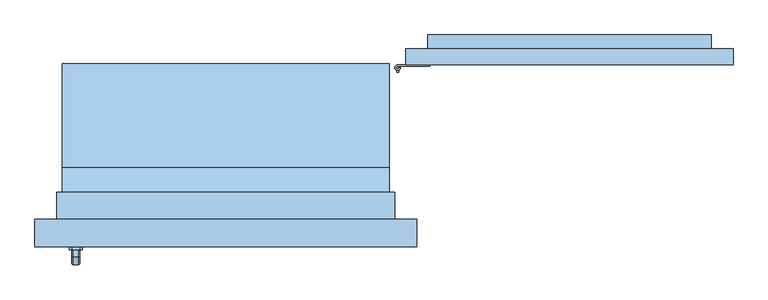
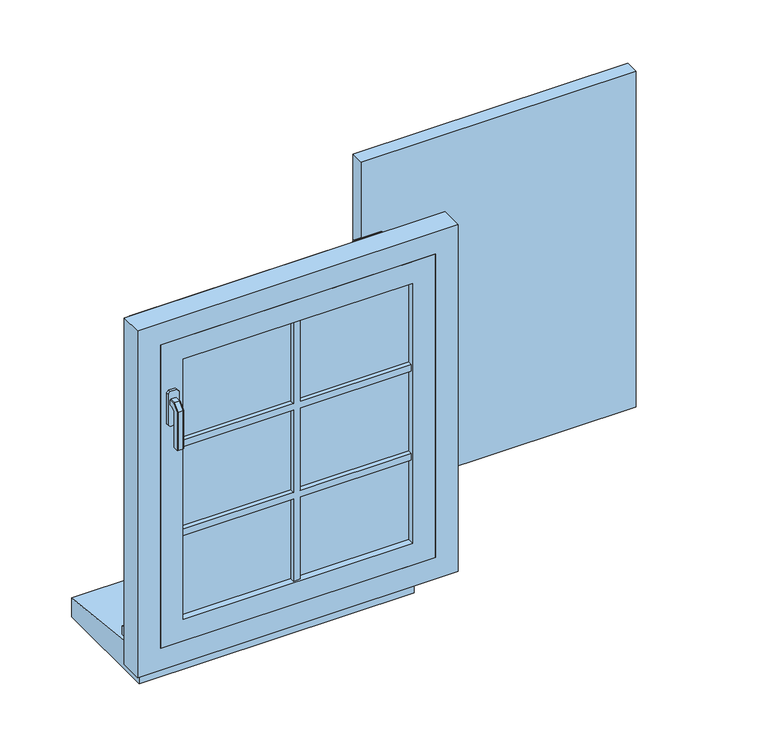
"""IFC4 building model written with IfcOpenShell, lengths in millimetres: window geometry, 1 Vantail droit - Volet et petits bois : 0.60m x 0.75m - Appui Béton."""

from ifc_helpers import new_model, si_unit, point, frame, frame_2d, origin, place, context, project, spatial, polyline, circle_curve, trimmed, segment, composite_curve, outline, extrude, faceted_brep, source, transform, mapped, element, save
from ifc_brep_helpers import plane_surface, cylinder_surface, advanced_brep


def window_c6c463f3(model_context):
    return source(origin(), model_context, "Body", "SolidModel", [
        extrude(outline(polyline([(930.0, 173.0), (330.0, 173.0), (330.0, 203.0), (930.0, 203.0), (930.0, 173.0)])), frame((0.0, 0.0, 775.0), z_axis=(0.0, 0.0, 1.0), x_axis=(1.0, 0.0, 0.0)), (0.0, 0.0, 1.0), 775.0),
        advanced_brep(
        [(310.0, 168.0, 975.0), (320.0, 168.0, 975.0), (310.0, 168.0, 950.0), (320.0, 168.0, 950.0), (317.0, 163.4174243, 955.0), (313.0, 163.4174243, 955.0), (313.0, 163.4174243, 965.0), (317.0, 163.4174243, 965.0), (313.0, 160.0, 965.0), (317.0, 160.0, 965.0), (317.0, 160.0, 955.0), (313.0, 160.0, 955.0)],
        [
            (0, 1, circle_curve(frame((315.0, 168.0, 975.0), z_axis=(0.0, 0.0, 1.0), x_axis=(1.0, 0.0, 0.0)), 5.0)),
            (1, 0, circle_curve(frame((315.0, 168.0, 975.0), z_axis=(0.0, 0.0, 1.0), x_axis=(1.0, 0.0, 0.0)), 5.0)),
            (2, 3, circle_curve(frame((315.0, 168.0, 950.0), z_axis=(0.0, 0.0, -1.0), x_axis=(1.0, 0.0, 0.0)), 5.0)),
            (3, 2, circle_curve(frame((315.0, 168.0, 950.0), z_axis=(0.0, 0.0, -1.0), x_axis=(1.0, 0.0, 0.0)), 5.0)),
            (0, 2),
            (3, 1),
            (4, 5, circle_curve(frame((315.0, 168.0, 955.0), z_axis=(0.0, 0.0, -1.0), x_axis=(1.0, 0.0, 0.0)), 5.0)),
            (5, 6),
            (6, 7, circle_curve(frame((315.0, 168.0, 965.0), z_axis=(0.0, 0.0, 1.0), x_axis=(1.0, 0.0, 0.0)), 5.0)),
            (7, 4),
            (8, 9),
            (9, 7),
            (6, 8),
            (10, 11),
            (11, 5),
            (4, 10),
            (9, 10),
            (11, 8),
        ],
        [
            plane_surface(frame((320.0, 168.0, 975.0), z_axis=(0.0, 0.0, 1.0), x_axis=(0.0, 1.0, 0.0))),
            plane_surface(frame((320.0, 168.0, 950.0), z_axis=(0.0, 0.0, -1.0), x_axis=(0.0, -1.0, 0.0))),
            cylinder_surface(frame((315.0, 168.0, 950.0), z_axis=(0.0, 0.0, 1.0), x_axis=(1.0, 0.0, 0.0)), 5.0),
            plane_surface(frame((317.0, 160.0, 965.0), z_axis=(0.0, 0.0, 1.0), x_axis=(0.0, 1.0, 0.0))),
            plane_surface(frame((317.0, 160.0, 955.0), z_axis=(0.0, 0.0, -1.0), x_axis=(0.0, -1.0, 0.0))),
            plane_surface(frame((317.0, 160.0, 965.0), z_axis=(1.0, 0.0, 0.0), x_axis=(0.0, 0.0, -1.0))),
            plane_surface(frame((313.0, 165.0, 965.0), z_axis=(-1.0, 0.0, 0.0), x_axis=(0.0, 0.0, -1.0))),
            plane_surface(frame((313.0, 160.0, 965.0), z_axis=(0.0, -1.0, 0.0), x_axis=(0.0, 0.0, -1.0))),
        ],
        [
            (0, [[1, 2]]),
            (1, [[3, 4]]),
            (2, [[-1, 5, -4, 6], [7, 8, 9, 10]]),
            (2, [[-2, -6, -3, -5]]),
            (3, [[11, 12, -9, 13]]),
            (4, [[14, 15, -7, 16]]),
            (5, [[17, -16, -10, -12]]),
            (6, [[18, -13, -8, -15]]),
            (7, [[-11, -18, -14, -17]]),
        ],
    ),
        extrude(outline(composite_curve([segment(polyline([(315.0, 173.0), (374.3092325, 173.0), (374.3092325, 170.5), (315.0, 170.5)]), True, "CONTINUOUS"), segment(trimmed(circle_curve(frame_2d((315.0, 168.0)), 2.5), [point((315.0, 170.5))], [point((317.5, 168.0))], True, "CARTESIAN"), True, "CONTINUOUS"), segment(polyline([(317.5, 168.0), (320.0, 168.0)]), True, "CONTINUOUS"), segment(trimmed(circle_curve(frame_2d((315.0, 168.0)), 5.0), [point((320.0, 168.0))], [point((315.0, 173.0))], False, "CARTESIAN"), True, "CONTINUOUS")], self_intersect=False)), frame((0.0, 0.0, 975.0), z_axis=(0.0, 0.0, 1.0), x_axis=(1.0, 0.0, 0.0)), (0.0, 0.0, 1.0), 25.0),
        extrude(outline(composite_curve([segment(trimmed(circle_curve(frame_2d((315.0, 168.0)), 2.5), [point((312.5, 168.0))], [point((317.5, 168.0))], False, "CARTESIAN"), True, "CONTINUOUS"), segment(trimmed(circle_curve(frame_2d((315.0, 168.0)), 2.5), [point((317.5, 168.0))], [point((312.5, 168.0))], False, "CARTESIAN"), True, "CONTINUOUS")], self_intersect=False)), frame((0.0, 0.0, 975.0), z_axis=(0.0, 0.0, 1.0), x_axis=(1.0, 0.0, 0.0)), (0.0, 0.0, 1.0), 25.0),
        advanced_brep(
        [(310.0, 168.0, 1350.0), (320.0, 168.0, 1350.0), (310.0, 168.0, 1325.0), (320.0, 168.0, 1325.0), (313.0, 163.4174243, 1340.0), (317.0, 163.4174243, 1340.0), (317.0, 163.4174243, 1330.0), (313.0, 163.4174243, 1330.0), (313.0, 160.0, 1340.0), (317.0, 160.0, 1340.0), (313.0, 160.0, 1330.0), (317.0, 160.0, 1330.0)],
        [
            (0, 1, circle_curve(frame((315.0, 168.0, 1350.0), z_axis=(0.0, 0.0, 1.0), x_axis=(1.0, 0.0, 0.0)), 5.0)),
            (1, 0, circle_curve(frame((315.0, 168.0, 1350.0), z_axis=(0.0, 0.0, 1.0), x_axis=(1.0, 0.0, 0.0)), 5.0)),
            (2, 3, circle_curve(frame((315.0, 168.0, 1325.0), z_axis=(0.0, 0.0, -1.0), x_axis=(1.0, 0.0, 0.0)), 5.0)),
            (3, 2, circle_curve(frame((315.0, 168.0, 1325.0), z_axis=(0.0, 0.0, -1.0), x_axis=(1.0, 0.0, 0.0)), 5.0)),
            (0, 2),
            (3, 1),
            (4, 5, circle_curve(frame((315.0, 168.0, 1340.0), z_axis=(0.0, 0.0, 1.0), x_axis=(1.0, 0.0, 0.0)), 5.0)),
            (5, 6),
            (6, 7, circle_curve(frame((315.0, 168.0, 1330.0), z_axis=(0.0, 0.0, -1.0), x_axis=(1.0, 0.0, 0.0)), 5.0)),
            (7, 4),
            (8, 9),
            (9, 5),
            (4, 8),
            (10, 7),
            (6, 11),
            (11, 10),
            (8, 10),
            (11, 9),
        ],
        [
            plane_surface(frame((320.0, 168.0, 1350.0), z_axis=(0.0, 0.0, 1.0), x_axis=(0.0, 1.0, 0.0))),
            plane_surface(frame((320.0, 168.0, 1325.0), z_axis=(0.0, 0.0, -1.0), x_axis=(0.0, -1.0, 0.0))),
            cylinder_surface(frame((315.0, 168.0, 1325.0), z_axis=(0.0, 0.0, 1.0), x_axis=(1.0, 0.0, 0.0)), 5.0),
            plane_surface(frame((313.0, 160.0, 1340.0), z_axis=(0.0, 0.0, 1.0), x_axis=(1.0, 0.0, 0.0))),
            plane_surface(frame((313.0, 160.0, 1330.0), z_axis=(0.0, 0.0, -1.0), x_axis=(-1.0, 0.0, 0.0))),
            plane_surface(frame((313.0, 160.0, 1340.0), z_axis=(0.0, -1.0, 0.0), x_axis=(0.0, 0.0, -1.0))),
            plane_surface(frame((317.0, 160.0, 1340.0), z_axis=(1.0, 0.0, 0.0), x_axis=(0.0, 0.0, -1.0))),
            plane_surface(frame((313.0, 163.4174243, 1340.0), z_axis=(-1.0, 0.0, 0.0), x_axis=(0.0, 0.0, -1.0))),
        ],
        [
            (0, [[1, 2]]),
            (1, [[3, 4]]),
            (2, [[-1, 5, -4, 6], [7, 8, 9, 10]]),
            (2, [[-2, -6, -3, -5]]),
            (3, [[11, 12, -7, 13]]),
            (4, [[14, -9, 15, 16]]),
            (5, [[-11, 17, -16, 18]]),
            (6, [[-12, -18, -15, -8]]),
            (7, [[-13, -10, -14, -17]]),
        ],
    ),
        extrude(outline(composite_curve([segment(polyline([(315.0, 173.0), (374.3092325, 173.0), (374.3092325, 170.5), (315.0, 170.5)]), True, "CONTINUOUS"), segment(trimmed(circle_curve(frame_2d((315.0, 168.0)), 2.5), [point((315.0, 170.5))], [point((317.5, 168.0))], True, "CARTESIAN"), True, "CONTINUOUS"), segment(polyline([(317.5, 168.0), (320.0, 168.0)]), True, "CONTINUOUS"), segment(trimmed(circle_curve(frame_2d((315.0, 168.0)), 5.0), [point((320.0, 168.0))], [point((315.0, 173.0))], False, "CARTESIAN"), True, "CONTINUOUS")], self_intersect=False)), frame((0.0, 0.0, 1350.0), z_axis=(0.0, 0.0, 1.0), x_axis=(1.0, 0.0, 0.0)), (0.0, 0.0, 1.0), 25.0),
        extrude(outline(composite_curve([segment(trimmed(circle_curve(frame_2d((315.0, 168.0)), 2.5), [point((312.5, 168.0))], [point((317.5, 168.0))], False, "CARTESIAN"), True, "CONTINUOUS"), segment(trimmed(circle_curve(frame_2d((315.0, 168.0)), 2.5), [point((317.5, 168.0))], [point((312.5, 168.0))], False, "CARTESIAN"), True, "CONTINUOUS")], self_intersect=False)), frame((0.0, 0.0, 1350.0), z_axis=(0.0, 0.0, 1.0), x_axis=(1.0, 0.0, 0.0)), (0.0, 0.0, 1.0), 25.0),
        extrude(outline(polyline([(1310.0, 890.0), (1310.0, 757.8528094), (1015.0, 370.0007252), (1015.0, 502.1479158), (1310.0, 890.0)])), frame((0.0, 203.0, 0.0), z_axis=(0.0, 1.0, 0.0), x_axis=(0.0, 0.0, 1.0)), (0.0, 0.0, 1.0), 25.0),
        extrude(outline(polyline([(370.0, 228.0), (890.0, 228.0), (890.0, 203.0), (370.0, 203.0), (370.0, 228.0)])), frame((0.0, 0.0, 1310.0), z_axis=(0.0, 0.0, 1.0), x_axis=(1.0, 0.0, 0.0)), (0.0, 0.0, 1.0), 80.0),
        extrude(outline(polyline([(370.0, 228.0), (890.0, 228.0), (890.0, 203.0), (370.0, 203.0), (370.0, 228.0)])), frame((0.0, 0.0, 935.0), z_axis=(0.0, 0.0, 1.0), x_axis=(1.0, 0.0, 0.0)), (0.0, 0.0, 1.0), 80.0),
        extrude(outline(polyline([(1310.0, -250.0), (1295.0, -250.0), (1295.0, -7.5), (1105.0, -7.5), (1105.0, -250.0), (1090.0, -250.0), (1090.0, -7.5), (900.0, -7.5), (900.0, 7.5), (1090.0, 7.5), (1090.0, 250.0), (1105.0, 250.0), (1105.0, 7.5), (1295.0, 7.5), (1295.0, 250.0), (1310.0, 250.0), (1310.0, 7.5), (1500.0, 7.5), (1500.0, -7.5), (1310.0, -7.5), (1310.0, -250.0)])), frame((0.0, -134.0, 0.0), z_axis=(0.0, 1.0, 0.0), x_axis=(0.0, 0.0, 1.0)), (0.0, 0.0, 1.0), 10.0),
        extrude(outline(polyline([(1310.0, -250.0), (1295.0, -250.0), (1295.0, -7.5), (1105.0, -7.5), (1105.0, -250.0), (1090.0, -250.0), (1090.0, -7.5), (900.0, -7.5), (900.0, 7.5), (1090.0, 7.5), (1090.0, 250.0), (1105.0, 250.0), (1105.0, 7.5), (1295.0, 7.5), (1295.0, 250.0), (1310.0, 250.0), (1310.0, 7.5), (1500.0, 7.5), (1500.0, -7.5), (1310.0, -7.5), (1310.0, -250.0)])), frame((0.0, -156.0, 0.0), z_axis=(0.0, 1.0, 0.0), x_axis=(0.0, 0.0, 1.0)), (0.0, 0.0, 1.0), 10.0),
        faceted_brep([(-269.3539903, -166.0, 1422.0339292), (-267.9660708, -166.0, 1420.6460097), (-267.9660708, -166.0, 1409.3323012), (-269.3323012, -166.0, 1407.9660708), (-280.6676988, -166.0, 1407.9660708), (-282.0339292, -166.0, 1409.3323012), (-282.0339292, -166.0, 1420.6460097), (-280.6460097, -166.0, 1422.0339292), (-269.3539903, -178.9135489, 1422.0339292), (-267.9660708, -178.3386538, 1420.6460097), (-267.9660708, -191.6460097, 1407.3386538), (-267.9660708, -191.6460097, 1320.0), (-267.9660708, -180.3323012, 1320.0), (-267.9660708, -180.3323012, 1402.6523623), (-267.9660708, -173.6523623, 1409.3323012), (-269.3323012, -173.0864511, 1407.9660708), (-280.6676988, -173.0864511, 1407.9660708), (-282.0339292, -173.6523623, 1409.3323012), (-282.0339292, -180.3323012, 1402.6523623), (-282.0339292, -180.3323012, 1320.0), (-282.0339292, -191.6460097, 1320.0), (-282.0339292, -191.6460097, 1407.3386538), (-282.0339292, -178.3386538, 1420.6460097), (-280.6460097, -178.9135489, 1422.0339292), (-269.3539903, -193.0339292, 1407.9135489), (-269.3323012, -178.9660708, 1402.0864511), (-280.6676988, -178.9660708, 1402.0864511), (-280.6460097, -193.0339292, 1407.9135489), (-269.3539903, -193.0339292, 1320.0), (-280.6460097, -193.0339292, 1320.0), (-280.6676988, -178.9660708, 1320.0), (-269.3323012, -178.9660708, 1320.0)], [[[0, 1, 2, 3, 4, 5, 6, 7]], [[1, 0, 8, 9]], [[2, 1, 9, 10, 11, 12, 13, 14]], [[3, 2, 14, 15]], [[4, 3, 15, 16]], [[5, 4, 16, 17]], [[6, 5, 17, 18, 19, 20, 21, 22]], [[7, 6, 22, 23]], [[0, 7, 23, 8]], [[9, 8, 24, 10]], [[15, 14, 13, 25]], [[16, 15, 25, 26]], [[17, 16, 26, 18]], [[23, 22, 21, 27]], [[8, 23, 27, 24]], [[28, 29, 20, 19, 30, 31, 12, 11]], [[10, 24, 28, 11]], [[25, 13, 12, 31]], [[26, 25, 31, 30]], [[18, 26, 30, 19]], [[27, 21, 20, 29]], [[24, 27, 29, 28]]]),
        extrude(outline(polyline([(1440.0, -268.0), (1440.0, -282.0), (1435.0, -287.0), (1365.0, -287.0), (1360.0, -282.0), (1360.0, -268.0), (1365.0, -263.0), (1435.0, -263.0), (1440.0, -268.0)])), frame((0.0, -166.0, 0.0), z_axis=(0.0, 1.0, 0.0), x_axis=(0.0, 0.0, 1.0)), (0.0, 0.0, 1.0), 6.0),
        extrude(outline(polyline([(-80.0, 800.0), (-30.0, 800.0), (-30.0, 785.0), (175.0, 763.4536318), (175.0, 720.0), (-80.0, 720.0), (-80.0, 800.0)])), frame((-300.0, 0.0, 0.0), z_axis=(1.0, 0.0, 0.0), x_axis=(0.0, 1.0, 0.0)), (0.0, 0.0, 1.0), 600.0),
        extrude(outline(polyline([(-250.0, -134.0), (250.0, -134.0), (250.0, -146.0), (-250.0, -146.0), (-250.0, -134.0)])), frame((0.0, 0.0, 900.0), z_axis=(0.0, 0.0, 1.0), x_axis=(1.0, 0.0, 0.0)), (0.0, 0.0, 1.0), 600.0),
        extrude(outline(polyline([(850.0, 300.0), (1550.0, 300.0), (1550.0, -300.0), (850.0, -300.0), (850.0, 300.0)]), holes=[polyline([(900.0, -250.0), (1500.0, -250.0), (1500.0, 250.0), (900.0, 250.0), (900.0, -250.0)])]), frame((0.0, -160.0, 0.0), z_axis=(0.0, 1.0, 0.0), x_axis=(0.0, 0.0, 1.0)), (0.0, 0.0, 1.0), 40.0),
        faceted_brep([(-350.0, -160.0, 800.0), (-350.0, -110.0, 800.0), (-300.0, -110.0, 800.0), (-300.0, -25.0, 800.0), (300.0, -25.0, 800.0), (300.0, -110.0, 800.0), (350.0, -110.0, 800.0), (350.0, -160.0, 800.0), (-350.0, -160.0, 1600.0), (-350.0, -110.0, 1600.0), (350.0, -110.0, 1600.0), (300.0, -110.0, 839.3761425), (-300.0, -110.0, 839.3761425), (-285.0, -110.0, 1535.0), (-285.0, -110.0, 865.0), (285.0, -110.0, 865.0), (285.0, -110.0, 1535.0), (-300.0, -15.0, 813.9209692), (-300.0, -15.0, 795.0), (-300.0, -25.0, 795.0), (300.0, -25.0, 795.0), (300.0, -15.0, 795.0), (300.0, -15.0, 813.9209692), (350.0, -160.0, 1600.0), (300.0, -160.0, 1550.0), (300.0, -160.0, 850.0), (-300.0, -160.0, 850.0), (-300.0, -160.0, 1550.0), (-285.0, -120.0, 1535.0), (-285.0, -120.0, 865.0), (285.0, -120.0, 865.0), (285.0, -120.0, 1535.0), (300.0, -120.0, 1550.0), (-300.0, -120.0, 1550.0), (-300.0, -120.0, 850.0), (300.0, -120.0, 850.0)], [[[0, 1, 2, 3, 4, 5, 6, 7]], [[1, 0, 8, 9]], [[1, 9, 10, 6, 5, 11, 12, 2], [13, 14, 15, 16]], [[12, 17, 18, 19, 3, 2]], [[3, 19, 20, 4]], [[4, 20, 21, 22, 11, 5]], [[6, 10, 23, 7]], [[0, 7, 23, 8], [24, 25, 26, 27]], [[13, 28, 29, 14]], [[29, 30, 15, 14]], [[31, 16, 15, 30]], [[17, 12, 11, 22]], [[32, 33, 34, 35], [28, 31, 30, 29]], [[34, 33, 27, 26]], [[26, 25, 35, 34]], [[24, 32, 35, 25]], [[18, 17, 22, 21]], [[19, 18, 21, 20]], [[13, 16, 31, 28]], [[33, 32, 24, 27]], [[10, 9, 8, 23]]]),
        extrude(outline(polyline([(800.0, -310.0), (800.0, -300.0), (1550.0, -300.0), (1550.0, 300.0), (800.0, 300.0), (800.0, 310.0), (1560.0, 310.0), (1560.0, -310.0), (800.0, -310.0)])), frame((0.0, -110.0, 0.0), z_axis=(0.0, 1.0, 0.0), x_axis=(0.0, 0.0, 1.0)), (0.0, 0.0, 1.0), 50.0),
    ])


if __name__ == "__main__":
    model = new_model("IFC4")
    model_context = context("Model", 3, world=origin())
    ifc_project = project(units=[si_unit("LENGTHUNIT", "METRE", prefix="MILLI")], contexts=[model_context])
    site = spatial("IfcSite", under=ifc_project)
    building = spatial("IfcBuilding", under=site)
    placement = place(None, origin())
    window_shape = window_c6c463f3(model_context)
    element("IfcWindow", 1, ObjectType="1 Vantail droit - Volet et petits bois : 0.60m x 0.75m - Appui Béton", at=placement, inside=building, context=model_context, shape_type="MappedRepresentation", body=[
        mapped(window_shape, transform((0.0, 0.0, 0.0), x_axis=(1.0, 0.0, 0.0), y_axis=(0.0, 1.0, 0.0), z_axis=(0.0, 0.0, 1.0))),
    ])
    save(model, "model.ifc")
